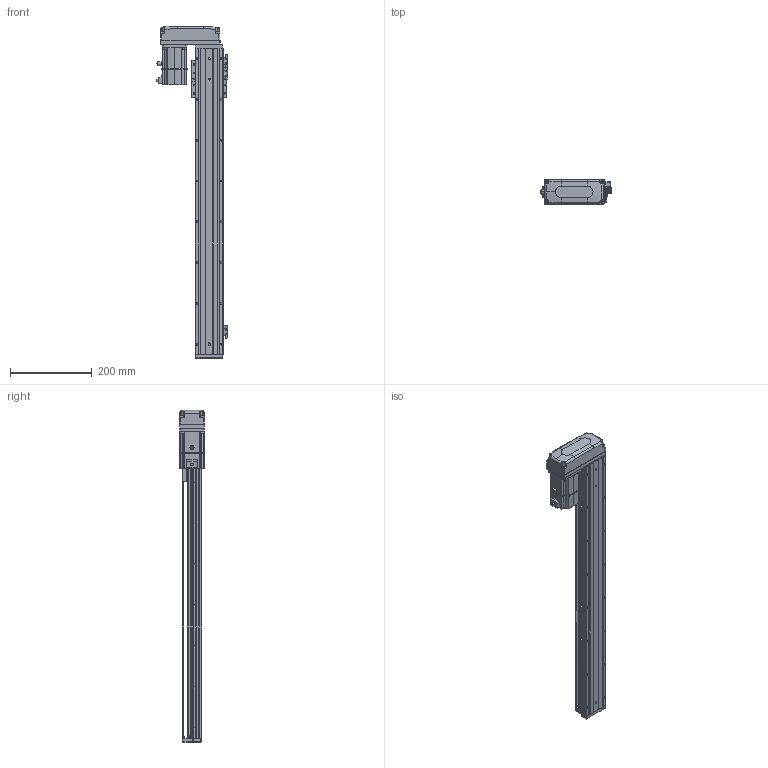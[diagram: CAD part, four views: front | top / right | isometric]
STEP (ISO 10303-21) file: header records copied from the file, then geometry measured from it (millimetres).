
FILE_DESCRIPTION (( 'STEP AP203' ), '1' );
FILE_NAME ('KTHAL60-600-BR-M20-C4L.step', '2022-12-16T02:16:05', ( '微软用户' ), ( '微软中国' ), 'SwSTEP 2.0', 'SolidWorks 2020', '' );
FILE_SCHEMA (( 'CONFIG_CONTROL_DESIGN' ));
Length unit declared in the file: millimetre
Products named in the file (17): CTHA60-017; CTHA60-015-4_CTHA60-015-4; KTHLA60-002; CTHA60-021; GTH80-026; KTHA60-004; GBT 70.1-M4×16; KTHAL60-600-BR-M20-C4L; KTHA60-005; GBT77-2000M3-3; GB¨uT 70.2-M3¡Á5_M3¡Á6; GBT 70.1-M3℅6; GBT 70.3-M3℅6; CTHA60-016; EE_SX911P_R; _X2_4E0983F1_X0_200W_1; KTHA60-001_750
Assembly tree (45 placements, depth 2):
  KTHAL60-600-BR-M20-C4L
    KTHA60-001_750
    KTHLA60-002
    KTHA60-004
    KTHA60-005
    GB¨uT 70.2-M3¡Á5_M3¡Á6  x5
    GBT 70.3-M3℅6  x4
    EE_SX911P_R  x3
    CTHA60-017  x3
    CTHA60-021  x2
    GBT 70.1-M4×16  x8
    GBT77-2000M3-3  x6
    GBT 70.1-M3℅6  x6
    CTHA60-016
    _X2_4E0983F1_X0_200W_1
    CTHA60-015-4_CTHA60-015-4
    GTH80-026
Bounding box: 173.02 x 62.42 x 814 mm (x, y, z)
Volume: 2087346.7 mm3; surface area: 452151.2 mm2
Topology: 48 solids, 48 shells, 2371 faces, 5660 edges, 3481 vertices
Faces by surface type: plane 1271, cylinder 629, cone 272, bspline 103, torus 82, sphere 14
Entity records: 46539 total; most frequent: CARTESIAN_POINT 10378, DIRECTION 7031, ORIENTED_EDGE 6944, EDGE_CURVE 3472, AXIS2_PLACEMENT_3D 2418, LINE 2195, VECTOR 2195, VERTEX_POINT 2165
